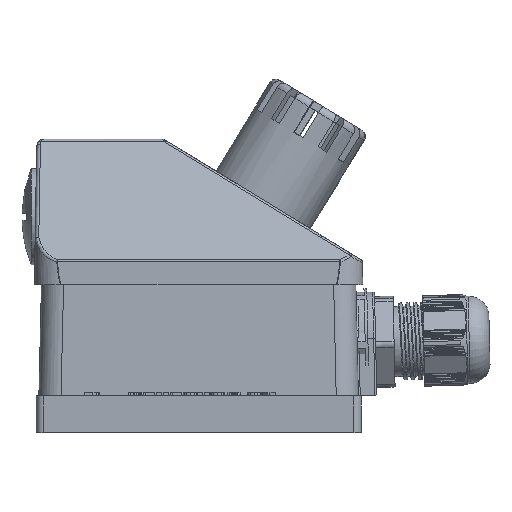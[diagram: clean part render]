
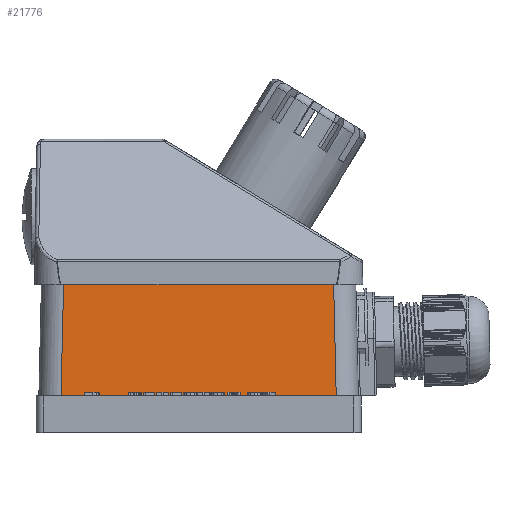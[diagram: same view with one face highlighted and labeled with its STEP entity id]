
A CAD part, left-side view. The second image highlights one B-rep face of the part: STEP entity #21776.
In plain terms, the highlighted planar face has unit normal (-1, 0, 0.023) as drawn and (-1, 0.023, 0) by its records, which use the part's own axes.
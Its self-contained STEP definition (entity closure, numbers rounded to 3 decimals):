
#480=PLANE('',#23178);
#1151=LINE('',#30716,#3044);
#1152=LINE('',#30718,#3045);
#1153=LINE('',#30720,#3046);
#1154=LINE('',#30721,#3047);
#3044=VECTOR('',#25119,1000.);
#3045=VECTOR('',#25120,1000.);
#3046=VECTOR('',#25121,1000.);
#3047=VECTOR('',#25122,1000.);
#6106=FACE_OUTER_BOUND('',#7372,.T.);
#7372=EDGE_LOOP('',(#15160,#15161,#15162,#15163));
#9373=VERTEX_POINT('',#30212);
#9526=VERTEX_POINT('',#30715);
#9527=VERTEX_POINT('',#30717);
#9528=VERTEX_POINT('',#30719);
#11748=EDGE_CURVE('',#9526,#9373,#1151,.T.);
#11749=EDGE_CURVE('',#9373,#9527,#1152,.T.);
#11750=EDGE_CURVE('',#9527,#9528,#1153,.T.);
#11751=EDGE_CURVE('',#9528,#9526,#1154,.T.);
#15160=ORIENTED_EDGE('',*,*,#11748,.T.);
#15161=ORIENTED_EDGE('',*,*,#11749,.T.);
#15162=ORIENTED_EDGE('',*,*,#11750,.T.);
#15163=ORIENTED_EDGE('',*,*,#11751,.T.);
#21776=ADVANCED_FACE('',(#6106),#480,.T.);
#23178=AXIS2_PLACEMENT_3D('',#30714,#25117,#25118);
#25117=DIRECTION('center_axis',(-1.,0.023,0.));
#25118=DIRECTION('ref_axis',(-0.023,-1.,0.));
#25119=DIRECTION('',(0.023,0.999,-0.023));
#25120=DIRECTION('',(0.,0.,-1.));
#25121=DIRECTION('',(-0.023,-0.999,-0.023));
#25122=DIRECTION('',(0.,0.,1.));
#30212=CARTESIAN_POINT('',(0.692,30.511,-6.691));
#30714=CARTESIAN_POINT('Origin',(0.,0.,-86.5));
#30715=CARTESIAN_POINT('',(0.,0.,-5.998));
#30716=CARTESIAN_POINT('',(0.041,1.825,-6.04));
#30717=CARTESIAN_POINT('',(0.692,30.511,-79.809));
#30718=CARTESIAN_POINT('',(0.692,30.511,-79.798));
#30719=CARTESIAN_POINT('',(0.,0.,-80.502));
#30720=CARTESIAN_POINT('',(-0.003,-0.136,-80.505));
#30721=CARTESIAN_POINT('',(0.,0.,-86.5));
